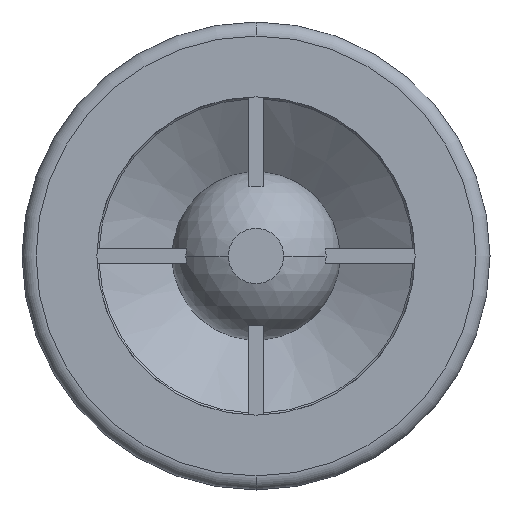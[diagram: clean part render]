
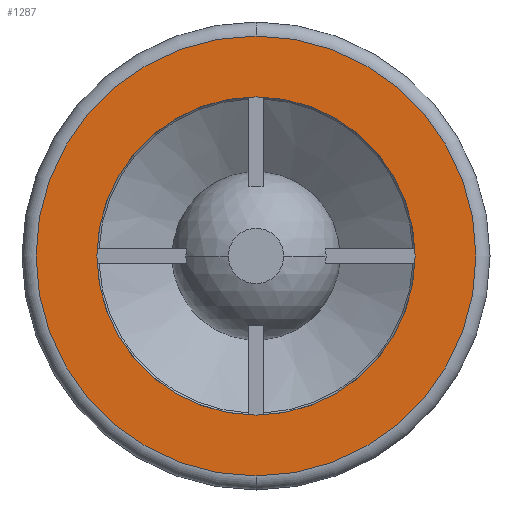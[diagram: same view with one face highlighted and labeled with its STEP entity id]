
A CAD part, front view. The second image highlights one B-rep face of the part: STEP entity #1287.
In plain terms, the highlighted planar face has unit normal (0, -1, 0).
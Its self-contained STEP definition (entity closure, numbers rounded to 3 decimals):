
#256 = VERTEX_POINT ( 'NONE', #1868 ) ;
#257 = VERTEX_POINT ( 'NONE', #1867 ) ;
#262 = EDGE_CURVE ( 'NONE', #256, #257, #1919, .T. ) ;
#1112 = VERTEX_POINT ( 'NONE', #4126 ) ;
#1114 = EDGE_CURVE ( 'NONE', #1112, #1115, #4125, .T. ) ;
#1115 = VERTEX_POINT ( 'NONE', #4119 ) ;
#1147 = EDGE_CURVE ( 'NONE', #1115, #1112, #4169, .T. ) ;
#1287 = ADVANCED_FACE ( 'NONE', ( #4472, #4471 ), #4470, .F. ) ;
#1288 = EDGE_LOOP ( 'NONE', ( #1289, #1291 ) ) ;
#1289 = ORIENTED_EDGE ( 'NONE', *, *, #1290, .T. ) ;
#1290 = EDGE_CURVE ( 'NONE', #257, #256, #4463, .T. ) ;
#1291 = ORIENTED_EDGE ( 'NONE', *, *, #262, .T. ) ;
#1347 = EDGE_LOOP ( 'NONE', ( #1348, #1349 ) ) ;
#1348 = ORIENTED_EDGE ( 'NONE', *, *, #1147, .F. ) ;
#1349 = ORIENTED_EDGE ( 'NONE', *, *, #1114, .F. ) ;
#1867 = CARTESIAN_POINT ( 'NONE',  ( 0., 0., 23.5 ) ) ;
#1868 = CARTESIAN_POINT ( 'NONE',  ( 0., 0., -23.5 ) ) ;
#1912 = DIRECTION ( 'NONE',  ( 0., 0., 1. ) ) ;
#1913 = DIRECTION ( 'NONE',  ( 0., -1., 0. ) ) ;
#1914 = CARTESIAN_POINT ( 'NONE',  ( 0., 0., 0. ) ) ;
#1915 = AXIS2_PLACEMENT_3D ( 'NONE', #1914, #1913, #1912 ) ;
#1919 = CIRCLE ( 'NONE', #1915, 23.5 ) ;
#4119 = CARTESIAN_POINT ( 'NONE',  ( 0., 0., -17. ) ) ;
#4120 = DIRECTION ( 'NONE',  ( 0., 0., -1. ) ) ;
#4121 = DIRECTION ( 'NONE',  ( 0., -1., 0. ) ) ;
#4122 = CARTESIAN_POINT ( 'NONE',  ( 0., 0., 0. ) ) ;
#4124 = AXIS2_PLACEMENT_3D ( 'NONE', #4122, #4121, #4120 ) ;
#4125 = CIRCLE ( 'NONE', #4124, 17. ) ;
#4126 = CARTESIAN_POINT ( 'NONE',  ( 0., 0., 17. ) ) ;
#4166 = DIRECTION ( 'NONE',  ( 0., 0., -1. ) ) ;
#4167 = DIRECTION ( 'NONE',  ( 0., -1., 0. ) ) ;
#4168 = AXIS2_PLACEMENT_3D ( 'NONE', #4175, #4167, #4166 ) ;
#4169 = CIRCLE ( 'NONE', #4168, 17. ) ;
#4175 = CARTESIAN_POINT ( 'NONE',  ( 0., 0., 0. ) ) ;
#4460 = DIRECTION ( 'NONE',  ( 0., 0., 1. ) ) ;
#4461 = DIRECTION ( 'NONE',  ( 0., -1., 0. ) ) ;
#4462 = AXIS2_PLACEMENT_3D ( 'NONE', #4468, #4461, #4460 ) ;
#4463 = CIRCLE ( 'NONE', #4462, 23.5 ) ;
#4465 = DIRECTION ( 'NONE',  ( 0., 0., 1. ) ) ;
#4466 = DIRECTION ( 'NONE',  ( 0., 1., 0. ) ) ;
#4467 = CARTESIAN_POINT ( 'NONE',  ( -17., 0., 0. ) ) ;
#4468 = CARTESIAN_POINT ( 'NONE',  ( 0., 0., 0. ) ) ;
#4469 = AXIS2_PLACEMENT_3D ( 'NONE', #4467, #4466, #4465 ) ;
#4470 = PLANE ( 'NONE',  #4469 ) ;
#4471 = FACE_BOUND ( 'NONE', #1347, .T. ) ;
#4472 = FACE_OUTER_BOUND ( 'NONE', #1288, .T. ) ;
